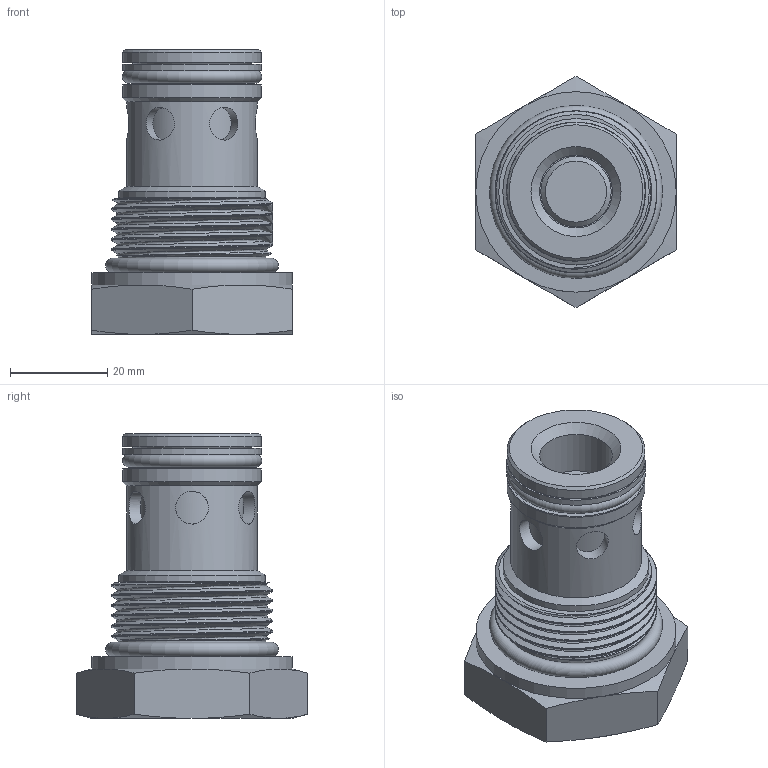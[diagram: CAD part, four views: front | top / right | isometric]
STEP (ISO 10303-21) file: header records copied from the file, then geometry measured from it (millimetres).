
FILE_DESCRIPTION(/* description */ ('','CAx-IF Rec.Pracs.---Representation and Presentation of Product Manufacturing Information (PMI)---4.0---2014-10-13'),/* implementation_level */ '2;1');
FILE_NAME(/* name */ 'P:\EARS\EAR16xx\EAR1683 - catalog pages changes\Group3_Distribution_1_18_23\RTeck Agency_Tom_UNSENT\_step files\HSJCVA00.stp',/* time_stamp */ '2023-01-20T14:23:12-06:00',/* author */ ('Michael'),/* organization */ (''),/* preprocessor_version */ 'ST-DEVELOPER v17.2',/* originating_system */ 'Autodesk Inventor 2019',/* authorisation */ '');
FILE_SCHEMA (('AP242_MANAGED_MODEL_BASED_3D_ENGINEERING_MIM_LF { 1 0 10303 442 1 1 4 }'));
Length unit declared in the file: inch
Products named in the file (1): HSJCVA00
Bounding box: 41.27 x 47.66 x 58.62 mm (x, y, z)
Volume: 51296.7 mm3; surface area: 13347.4 mm2
Topology: 2 solids, 3 shells, 89 faces, 218 edges, 146 vertices
Faces by surface type: cylinder 35, plane 20, cone 20, torus 9, bspline 5
Full cylindrical faces by diameter (mm): 6.756 x6, 14.986 x1, 19.094 x1, 24.054 x2, 24.181 x1, 26.924 x1, 28.499 x1, 28.524 x2, 30.15 x1, 30.328 x2, 33.337 x8, 41.275 x1
Entity records: 5688 total; most frequent: CARTESIAN_POINT 3484, ORIENTED_EDGE 436, DIRECTION 410, EDGE_CURVE 218, AXIS2_PLACEMENT_3D 184, VERTEX_POINT 146, EDGE_LOOP 106, CIRCLE 99
